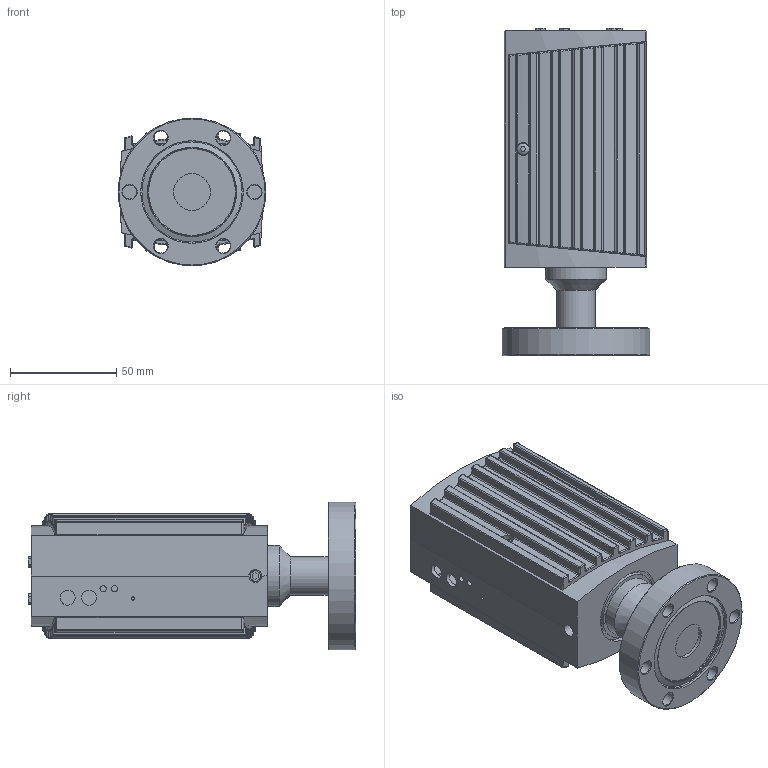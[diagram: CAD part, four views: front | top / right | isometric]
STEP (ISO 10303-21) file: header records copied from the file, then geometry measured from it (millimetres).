
FILE_DESCRIPTION((''),'2;1');
FILE_NAME('W:\Importierte Komponenten\M353-526\M353-526.stp','2013-04-04T11:07:29',('GELH'),(''),'Autodesk Inventor 2012','Autodesk Inventor 2012','');
FILE_SCHEMA(('AUTOMOTIVE_DESIGN { 1 0 10303 214 1 1 1 1 }'));
Length unit declared in the file: millimetre
Products named in the file (1): M353-526
Bounding box: 69.5 x 153.9 x 69.5 mm (x, y, z)
Volume: 168560.5 mm3; surface area: 89987.9 mm2
Topology: 3 solids, 3 shells, 829 faces, 2179 edges, 1373 vertices
Faces by surface type: plane 381, cylinder 261, bspline 104, sphere 59, cone 21, torus 3
Full cylindrical faces by diameter (mm): 1.5 x2, 2.3 x2, 2.4 x4, 2.8 x2, 3 x10, 3.2 x6, 4 x1, 4.2 x2, 4.8 x1, 5.6 x2, 6 x3, 6.6 x6, 7 x2, 17.2 x1, 18 x1, 28.7 x3, 69.5 x1
Entity records: 33213 total; most frequent: CARTESIAN_POINT 12700, DIRECTION 4418, ORIENTED_EDGE 4148, EDGE_CURVE 2074, AXIS2_PLACEMENT_3D 1662, VERTEX_POINT 1348, VECTOR 1094, LINE 1094
